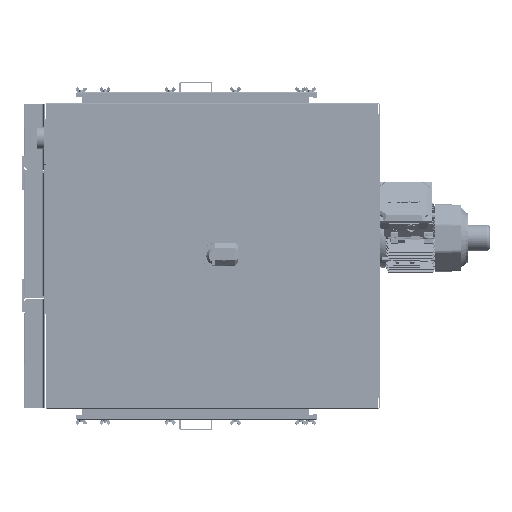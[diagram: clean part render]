
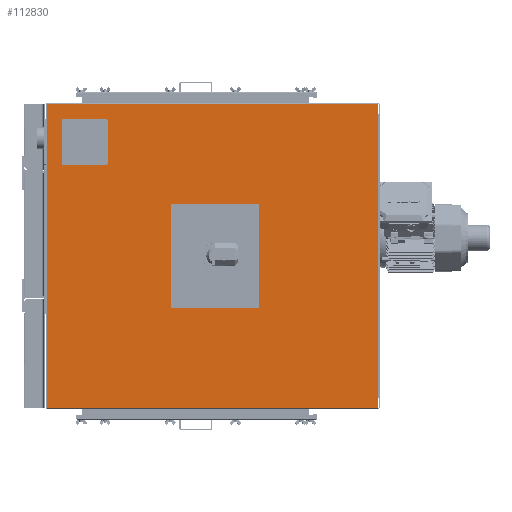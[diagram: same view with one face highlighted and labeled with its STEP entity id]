
A CAD part, left-side view. The second image highlights one B-rep face of the part: STEP entity #112830.
In plain terms, the highlighted planar face has unit normal (-1, 0, 0).
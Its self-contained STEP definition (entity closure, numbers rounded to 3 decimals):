
#6715=LINE('',#168629,#15322);
#6718=LINE('',#168637,#15325);
#6723=LINE('',#168648,#15330);
#6724=LINE('',#168652,#15331);
#6725=LINE('',#168656,#15332);
#6726=LINE('',#168658,#15333);
#6727=LINE('',#168660,#15334);
#6728=LINE('',#168661,#15335);
#6729=LINE('',#168664,#15336);
#6730=LINE('',#168666,#15337);
#6731=LINE('',#168668,#15338);
#6732=LINE('',#168669,#15339);
#15322=VECTOR('',#134879,200.);
#15325=VECTOR('',#134888,200.);
#15330=VECTOR('',#134899,200.);
#15331=VECTOR('',#134906,200.);
#15332=VECTOR('',#134909,1524.);
#15333=VECTOR('',#134910,1398.);
#15334=VECTOR('',#134911,1524.);
#15335=VECTOR('',#134912,1398.);
#15336=VECTOR('',#134913,402.);
#15337=VECTOR('',#134914,472.);
#15338=VECTOR('',#134915,402.);
#15339=VECTOR('',#134916,472.);
#22611=PLANE('',#120001);
#25234=FACE_BOUND('',#34468,.T.);
#25235=FACE_BOUND('',#34469,.T.);
#27779=FACE_OUTER_BOUND('',#34467,.T.);
#34467=EDGE_LOOP('',(#78317,#78318,#78319,#78320));
#34468=EDGE_LOOP('',(#78321,#78322,#78323,#78324,#78325,#78326,#78327,#78328));
#34469=EDGE_LOOP('',(#78329,#78330,#78331,#78332));
#41685=CIRCLE('',#119990,5.);
#41686=CIRCLE('',#119993,5.);
#41687=CIRCLE('',#119996,5.);
#41688=CIRCLE('',#119999,5.);
#47625=VERTEX_POINT('',#168622);
#47626=VERTEX_POINT('',#168623);
#47627=VERTEX_POINT('',#168628);
#47628=VERTEX_POINT('',#168632);
#47629=VERTEX_POINT('',#168636);
#47630=VERTEX_POINT('',#168640);
#47631=VERTEX_POINT('',#168641);
#47632=VERTEX_POINT('',#168646);
#47633=VERTEX_POINT('',#168654);
#47634=VERTEX_POINT('',#168655);
#47635=VERTEX_POINT('',#168657);
#47636=VERTEX_POINT('',#168659);
#47637=VERTEX_POINT('',#168662);
#47638=VERTEX_POINT('',#168663);
#47639=VERTEX_POINT('',#168665);
#47640=VERTEX_POINT('',#168667);
#59232=EDGE_CURVE('',#47625,#47626,#41685,.T.);
#59235=EDGE_CURVE('',#47627,#47625,#6715,.T.);
#59237=EDGE_CURVE('',#47628,#47627,#41686,.T.);
#59239=EDGE_CURVE('',#47629,#47628,#6718,.T.);
#59241=EDGE_CURVE('',#47630,#47631,#41687,.T.);
#59245=EDGE_CURVE('',#47631,#47632,#6723,.T.);
#59246=EDGE_CURVE('',#47632,#47629,#41688,.T.);
#59247=EDGE_CURVE('',#47626,#47630,#6724,.T.);
#59248=EDGE_CURVE('',#47633,#47634,#6725,.T.);
#59249=EDGE_CURVE('',#47634,#47635,#6726,.T.);
#59250=EDGE_CURVE('',#47635,#47636,#6727,.T.);
#59251=EDGE_CURVE('',#47636,#47633,#6728,.T.);
#59252=EDGE_CURVE('',#47637,#47638,#6729,.T.);
#59253=EDGE_CURVE('',#47638,#47639,#6730,.T.);
#59254=EDGE_CURVE('',#47639,#47640,#6731,.T.);
#59255=EDGE_CURVE('',#47640,#47637,#6732,.T.);
#78317=ORIENTED_EDGE('',*,*,#59248,.T.);
#78318=ORIENTED_EDGE('',*,*,#59249,.T.);
#78319=ORIENTED_EDGE('',*,*,#59250,.T.);
#78320=ORIENTED_EDGE('',*,*,#59251,.T.);
#78321=ORIENTED_EDGE('',*,*,#59241,.T.);
#78322=ORIENTED_EDGE('',*,*,#59245,.T.);
#78323=ORIENTED_EDGE('',*,*,#59246,.T.);
#78324=ORIENTED_EDGE('',*,*,#59239,.T.);
#78325=ORIENTED_EDGE('',*,*,#59237,.T.);
#78326=ORIENTED_EDGE('',*,*,#59235,.T.);
#78327=ORIENTED_EDGE('',*,*,#59232,.T.);
#78328=ORIENTED_EDGE('',*,*,#59247,.T.);
#78329=ORIENTED_EDGE('',*,*,#59252,.T.);
#78330=ORIENTED_EDGE('',*,*,#59253,.T.);
#78331=ORIENTED_EDGE('',*,*,#59254,.T.);
#78332=ORIENTED_EDGE('',*,*,#59255,.T.);
#112830=ADVANCED_FACE('',(#27779,#25234,#25235),#22611,.F.);
#119990=AXIS2_PLACEMENT_3D('',#168624,#134873,#134874);
#119993=AXIS2_PLACEMENT_3D('',#168633,#134883,#134884);
#119996=AXIS2_PLACEMENT_3D('',#168642,#134892,#134893);
#119999=AXIS2_PLACEMENT_3D('',#168650,#134902,#134903);
#120001=AXIS2_PLACEMENT_3D('',#168653,#134907,#134908);
#134873=DIRECTION('center_axis',(1.,0.,0.));
#134874=DIRECTION('ref_axis',(0.,0.707,-0.707));
#134879=DIRECTION('',(0.,1.,0.));
#134883=DIRECTION('center_axis',(1.,0.,0.));
#134884=DIRECTION('ref_axis',(0.,-0.707,
-0.707));
#134888=DIRECTION('',(0.,0.,-1.));
#134892=DIRECTION('center_axis',(1.,0.,0.));
#134893=DIRECTION('ref_axis',(0.,0.707,0.707));
#134899=DIRECTION('',(0.,-1.,0.));
#134902=DIRECTION('center_axis',(1.,0.,0.));
#134903=DIRECTION('ref_axis',(0.,-0.707,
0.707));
#134906=DIRECTION('',(0.,0.,1.));
#134907=DIRECTION('center_axis',(1.,0.,0.));
#134908=DIRECTION('ref_axis',(0.,1.,0.));
#134909=DIRECTION('',(0.,1.,0.));
#134910=DIRECTION('',(0.,0.,-1.));
#134911=DIRECTION('',(0.,-1.,0.));
#134912=DIRECTION('',(0.,0.,1.));
#134913=DIRECTION('',(0.,1.,0.));
#134914=DIRECTION('',(0.,0.,1.));
#134915=DIRECTION('',(0.,-1.,0.));
#134916=DIRECTION('',(0.,0.,-1.));
#168622=CARTESIAN_POINT('',(-1943.466,490.525,843.813));
#168623=CARTESIAN_POINT('',(-1943.466,495.525,848.813));
#168624=CARTESIAN_POINT('Origin',(-1943.466,490.525,848.813));
#168628=CARTESIAN_POINT('',(-1943.466,290.525,843.813));
#168629=CARTESIAN_POINT('',(-1943.466,148.425,843.813));
#168632=CARTESIAN_POINT('',(-1943.466,285.525,848.813));
#168633=CARTESIAN_POINT('Origin',(-1943.466,290.525,848.813));
#168636=CARTESIAN_POINT('',(-1943.466,285.525,1048.813));
#168637=CARTESIAN_POINT('',(-1943.466,285.525,634.213));
#168640=CARTESIAN_POINT('',(-1943.466,495.525,1048.813));
#168641=CARTESIAN_POINT('',(-1943.466,490.525,1053.813));
#168642=CARTESIAN_POINT('Origin',(-1943.466,490.525,1048.813));
#168646=CARTESIAN_POINT('',(-1943.466,290.525,1053.813));
#168648=CARTESIAN_POINT('',(-1943.466,43.425,1053.813));
#168650=CARTESIAN_POINT('Origin',(-1943.466,290.525,1048.813));
#168652=CARTESIAN_POINT('',(-1943.466,495.525,739.213));
#168653=CARTESIAN_POINT('Origin',(-1943.466,-198.675,424.613));
#168654=CARTESIAN_POINT('',(-1943.466,-960.675,1123.613));
#168655=CARTESIAN_POINT('',(-1943.466,563.325,1123.613));
#168656=CARTESIAN_POINT('',(-1943.466,-579.675,1123.613));
#168657=CARTESIAN_POINT('',(-1943.466,563.325,-274.387));
#168658=CARTESIAN_POINT('',(-1943.466,563.325,1125.613));
#168659=CARTESIAN_POINT('',(-1943.466,-960.675,-274.387));
#168660=CARTESIAN_POINT('',(-1943.466,182.325,-274.387));
#168661=CARTESIAN_POINT('',(-1943.466,-960.675,-276.387));
#168662=CARTESIAN_POINT('',(-1943.466,-410.675,188.613));
#168663=CARTESIAN_POINT('',(-1943.466,-8.675,188.613));
#168664=CARTESIAN_POINT('',(-1943.466,-103.675,188.613));
#168665=CARTESIAN_POINT('',(-1943.466,-8.675,660.613));
#168666=CARTESIAN_POINT('',(-1943.466,-8.675,542.613));
#168667=CARTESIAN_POINT('',(-1943.466,-410.675,660.613));
#168668=CARTESIAN_POINT('',(-1943.466,-304.675,660.613));
#168669=CARTESIAN_POINT('',(-1943.466,-410.675,306.613));
